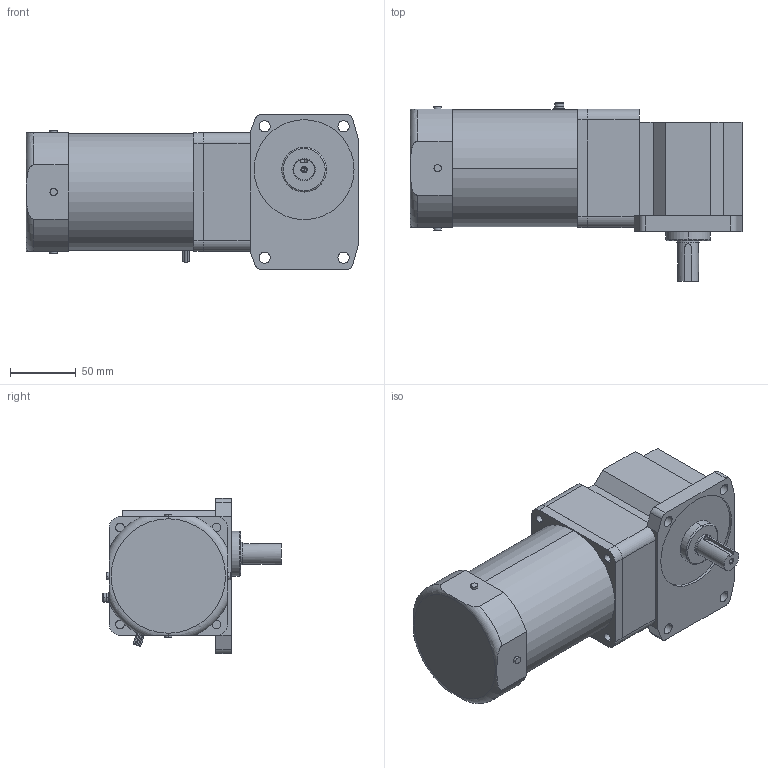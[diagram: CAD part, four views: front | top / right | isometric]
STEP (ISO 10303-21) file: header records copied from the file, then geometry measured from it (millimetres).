
FILE_DESCRIPTION(('starvars output'),'2;1');
FILE_NAME('5IK90GE-AW2U _ 5GE60RAA.stp','10:53:34 2015/05/11',( 'Thomas Industrial Network Germany GmbH'),( 'Thomas Industrial Network Germany GmbH'),'unknown preprocess','ACIS' ,'unknown authorization');
FILE_SCHEMA(('AUTOMOTIVE_DESIGN_CC2 {UNKNOWN IMPLEMENTATION LEVEL}'));
Length unit declared in the file: millimetre
Products named in the file (1): PRODUCT_ID_2823
Bounding box: 252.5 x 136 x 118 mm (x, y, z)
Volume: 1775369.4 mm3; surface area: 109536.9 mm2
Topology: 2 solids, 2 shells, 174 faces, 419 edges, 273 vertices
Faces by surface type: cylinder 81, plane 81, torus 8, cone 4
Entity records: 6285 total; most frequent: CARTESIAN_POINT 1061, ORIENTED_EDGE 834, DIRECTION 702, EDGE_CURVE 417, VERTEX_POINT 273, AXIS2_PLACEMENT_3D 242, VECTOR 218, LINE 218
